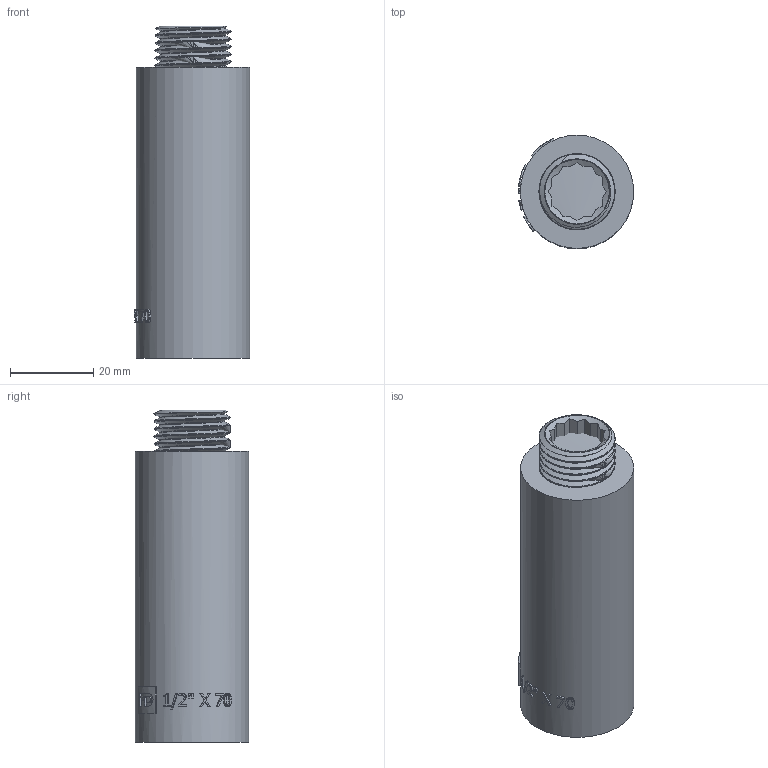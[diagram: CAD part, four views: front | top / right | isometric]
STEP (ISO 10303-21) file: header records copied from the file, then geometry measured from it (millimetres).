
FILE_DESCRIPTION(/* description */ (''),/* implementation_level */ '2;1');
FILE_NAME(/* name */ 'C:\Users\Doom\Desktop\Фадотех\Резьба\UD70 18.03.2020\UD70 18.03.2020.stp',/* time_stamp */ '2022-01-22T11:53:00+02:00',/* author */ ('Doom'),/* organization */ (''),/* preprocessor_version */ 'ST-DEVELOPER v18',/* originating_system */ 'Autodesk Inventor 2020',/* authorisation */ '');
FILE_SCHEMA (('AUTOMOTIVE_DESIGN { 1 0 10303 214 3 1 1 }'));
Length unit declared in the file: millimetre
Products named in the file (1): UD70 18.03.2020
Bounding box: 27.8 x 27.3 x 80 mm (x, y, z)
Volume: 25889.1 mm3; surface area: 18259.7 mm2
Topology: 3 solids, 3 shells, 186 faces, 501 edges, 334 vertices
Faces by surface type: plane 81, bspline 57, cylinder 45, cone 3
Full cylindrical faces by diameter (mm): 15.649 x2, 17.107 x1, 18.26 x16, 18.34 x6, 20.95 x2, 21.5 x1, 27.3 x1
Entity records: 16683 total; most frequent: CARTESIAN_POINT 12518, ORIENTED_EDGE 994, DIRECTION 638, EDGE_CURVE 497, VERTEX_POINT 332, AXIS2_PLACEMENT_3D 227, EDGE_LOOP 207, FACE_OUTER_BOUND 186
